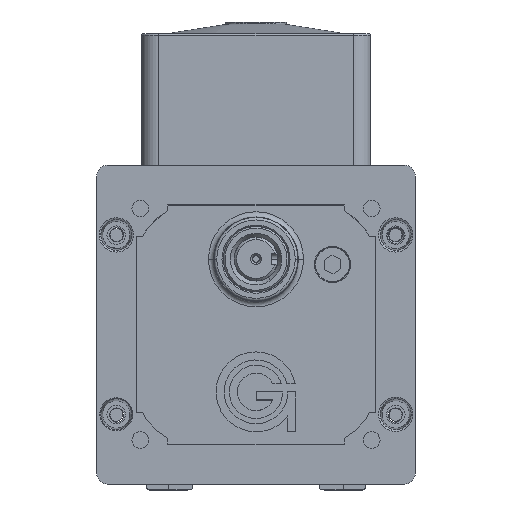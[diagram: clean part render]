
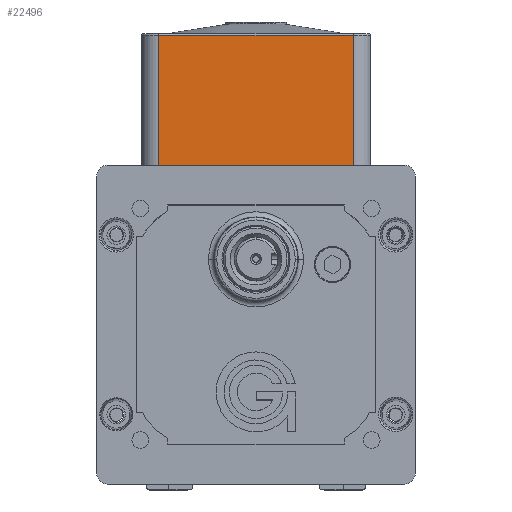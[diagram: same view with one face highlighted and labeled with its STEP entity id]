
A CAD part, top view. The second image highlights one B-rep face of the part: STEP entity #22496.
In plain terms, the highlighted planar face has unit normal (0, 0, 1).
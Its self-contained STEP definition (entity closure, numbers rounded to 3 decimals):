
#972 = ORIENTED_EDGE ( 'NONE', *, *, #9062, .T. ) ;
#1457 = VECTOR ( 'NONE', #26825, 1000. ) ;
#2124 = EDGE_LOOP ( 'NONE', ( #5980, #972, #26970, #40475 ) ) ;
#3419 = LINE ( 'NONE', #25458, #44537 ) ;
#3544 = FACE_OUTER_BOUND ( 'NONE', #2124, .T. ) ;
#5980 = ORIENTED_EDGE ( 'NONE', *, *, #31533, .T. ) ;
#8249 = CARTESIAN_POINT ( 'NONE',  ( 33.337, 84.645, -94.709 ) ) ;
#9062 = EDGE_CURVE ( 'NONE', #19220, #14638, #12217, .T. ) ;
#11960 = PLANE ( 'NONE',  #44345 ) ;
#12217 = LINE ( 'NONE', #49444, #18524 ) ;
#14638 = VERTEX_POINT ( 'NONE', #23083 ) ;
#15259 = DIRECTION ( 'NONE',  ( 1., 0., 0. ) ) ;
#18524 = VECTOR ( 'NONE', #21659, 1000. ) ;
#19220 = VERTEX_POINT ( 'NONE', #23179 ) ;
#20010 = DIRECTION ( 'NONE',  ( -1., 0., 0. ) ) ;
#21659 = DIRECTION ( 'NONE',  ( -1., 0., 0. ) ) ;
#21833 = DIRECTION ( 'NONE',  ( 0., 1., 0. ) ) ;
#22496 = ADVANCED_FACE ( 'NONE', ( #3544 ), #11960, .F. ) ;
#22633 = EDGE_CURVE ( 'NONE', #14638, #44238, #22662, .T. ) ;
#22662 = LINE ( 'NONE', #46510, #1457 ) ;
#23083 = CARTESIAN_POINT ( 'NONE',  ( -28.257, 84.29, -94.709 ) ) ;
#23179 = CARTESIAN_POINT ( 'NONE',  ( 28.257, 84.29, -94.709 ) ) ;
#23378 = EDGE_CURVE ( 'NONE', #44238, #46168, #41786, .T. ) ;
#25458 = CARTESIAN_POINT ( 'NONE',  ( 28.257, 84.645, -94.709 ) ) ;
#26825 = DIRECTION ( 'NONE',  ( 0., -1., 0. ) ) ;
#26970 = ORIENTED_EDGE ( 'NONE', *, *, #22633, .T. ) ;
#29752 = CARTESIAN_POINT ( 'NONE',  ( -28.257, 45.123, -94.709 ) ) ;
#31533 = EDGE_CURVE ( 'NONE', #46168, #19220, #3419, .T. ) ;
#35655 = VECTOR ( 'NONE', #15259, 1000. ) ;
#39065 = CARTESIAN_POINT ( 'NONE',  ( 33.337, 45.123, -94.709 ) ) ;
#40475 = ORIENTED_EDGE ( 'NONE', *, *, #23378, .T. ) ;
#41786 = LINE ( 'NONE', #39065, #35655 ) ;
#43810 = DIRECTION ( 'NONE',  ( 0., 0., -1. ) ) ;
#44238 = VERTEX_POINT ( 'NONE', #29752 ) ;
#44345 = AXIS2_PLACEMENT_3D ( 'NONE', #8249, #43810, #20010 ) ;
#44537 = VECTOR ( 'NONE', #21833, 1000. ) ;
#46168 = VERTEX_POINT ( 'NONE', #51568 ) ;
#46510 = CARTESIAN_POINT ( 'NONE',  ( -28.257, 84.645, -94.709 ) ) ;
#49444 = CARTESIAN_POINT ( 'NONE',  ( -28.257, 84.29, -94.709 ) ) ;
#51568 = CARTESIAN_POINT ( 'NONE',  ( 28.257, 45.123, -94.709 ) ) ;
